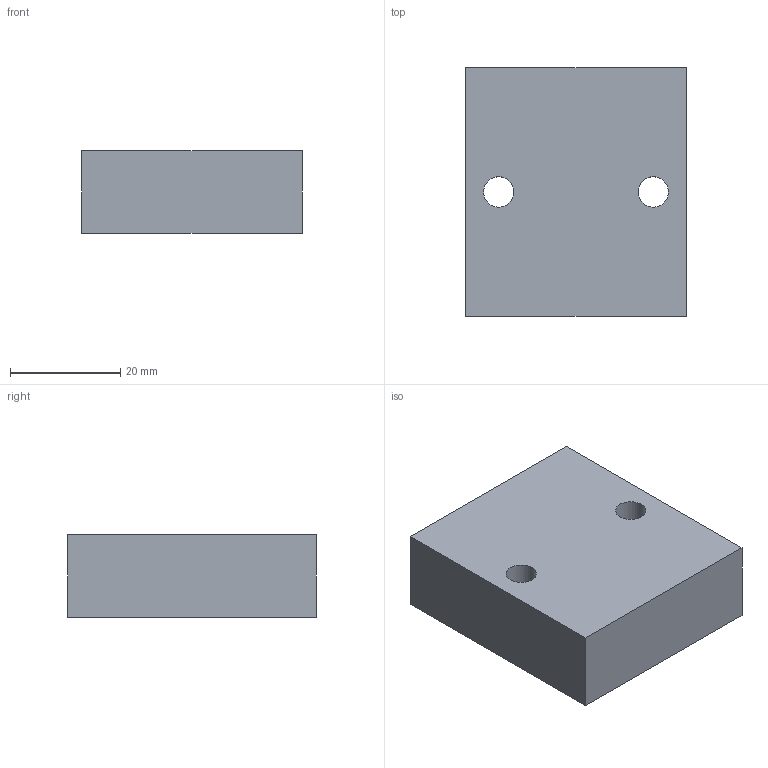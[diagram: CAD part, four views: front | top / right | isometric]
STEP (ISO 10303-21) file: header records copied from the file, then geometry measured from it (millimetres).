
FILE_DESCRIPTION(/* description */ ('Katalogmodell Elobau'),/* implementation_level */ '2;1');
FILE_NAME(/* name */ '350002_B.stp',/* time_stamp */ '2016-12-01T09:28:48+01:00',/* author */ ('Elobau GmbH & Co. KG'),/* organization */ ('Elobau GmbH & Co. KG'),/* preprocessor_version */ 'ST-DEVELOPER v15',/* originating_system */ 'SIEMENS PLM Software NX 8.5',/* authorisation */ '');
FILE_SCHEMA (('AUTOMOTIVE_DESIGN { 1 0 10303 214 3 1 1 1 }'));
Length unit declared in the file: millimetre
Products named in the file (1): 350002_B
Bounding box: 40 x 45 x 15 mm (x, y, z)
Volume: 26287.3 mm3; surface area: 6573.3 mm2
Topology: 1 solids, 1 shells, 8 faces, 18 edges, 12 vertices
Faces by surface type: plane 6, cylinder 2
Full cylindrical faces by diameter (mm): 5.5 x2
Entity records: 248 total; most frequent: DIRECTION 38, CARTESIAN_POINT 37, ORIENTED_EDGE 32, EDGE_CURVE 16, EDGE_LOOP 14, AXIS2_PLACEMENT_3D 13, LINE 12, VECTOR 12
